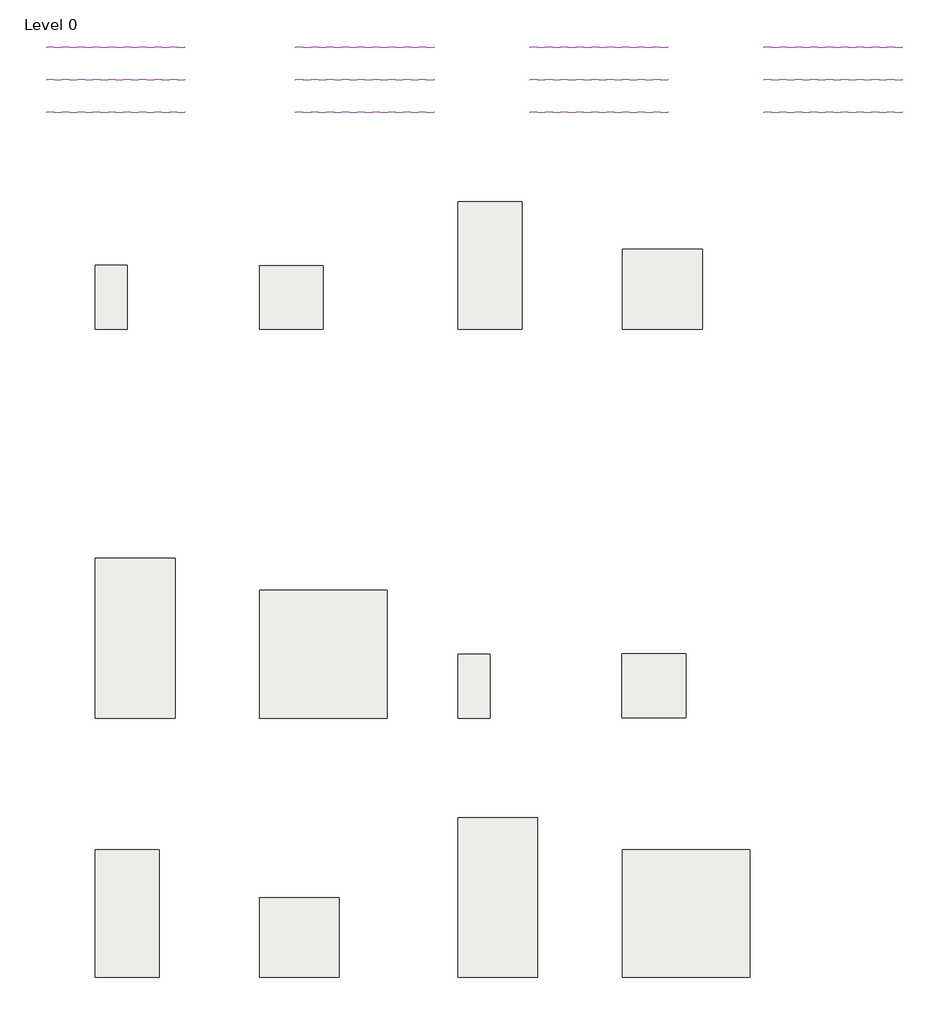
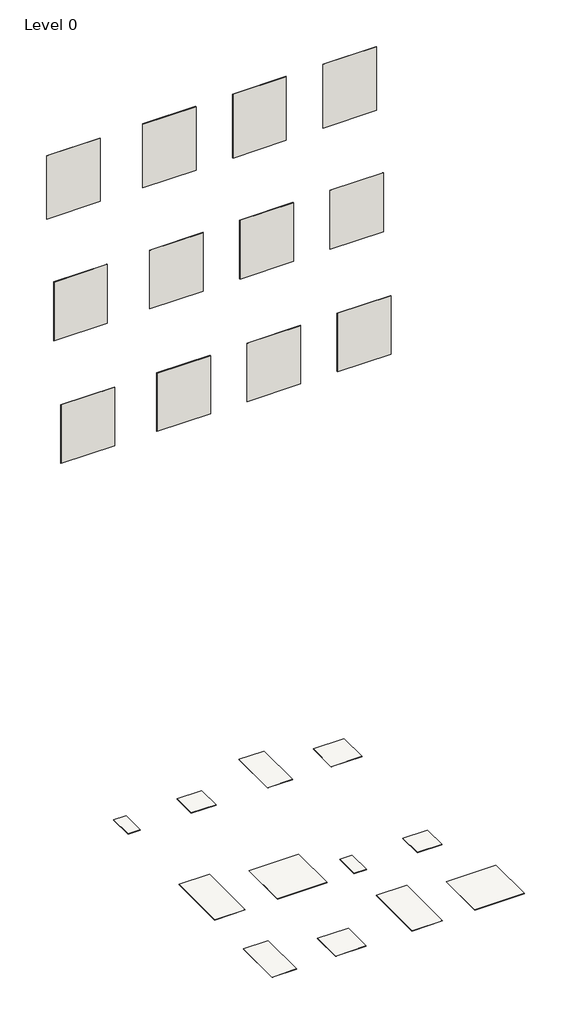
# One storey: 12 slabs, 12 walls.
"""IFC4 building model written with IfcOpenShell, lengths in millimetres."""

from ifc_helpers import new_model, si_unit, frame, origin, place, context, project, spatial, polyline, outline, extrude, element, save

model = new_model("IFC4")

# Units and contexts
model_context = context("Model", 3, world=origin())
ifc_project = project(units=[si_unit("LENGTHUNIT", "METRE", prefix="MILLI")], contexts=[model_context])

# Site, building, storey
site = spatial("IfcSite", under=ifc_project)
building = spatial("IfcBuilding", under=site)
storey = spatial("IfcBuildingStorey", under=building, Name="Level 0", Elevation=0.0)

# Slabs
placement = place(None, origin())
element("IfcSlab", 1, ObjectType="Floor_Tiles_Refin-Block-Mist-60x120 NC86", at=placement, inside=storey, context=model_context, shape_type="SweptSolid", body=[
    extrude(outline(polyline([(10382.3946695, 6689.4623743), (10382.3946695, 5489.4623743), (9782.3946695, 5489.4623743), (9782.3946695, 6689.4623743), (10382.3946695, 6689.4623743)])), frame((0.0, 0.0, -10.0), z_axis=(0.0, 0.0, 1.0), x_axis=(1.0, 0.0, 0.0)), (0.0, 0.0, 1.0), 10.0),
])
element("IfcSlab", 2, ObjectType="Floor_Tiles_Refin-Block-Mist-30x60 MX26", at=placement, inside=storey, context=model_context, shape_type="SweptSolid", body=[
    extrude(outline(polyline([(6674.3752062, 6089.4623743), (6674.3752062, 5489.4623743), (6374.3752062, 5489.4623743), (6374.3752062, 6089.4623743), (6674.3752062, 6089.4623743)])), frame((0.0, 0.0, -10.0), z_axis=(0.0, 0.0, 1.0), x_axis=(1.0, 0.0, 0.0)), (0.0, 0.0, 1.0), 10.0),
])
element("IfcSlab", 3, ObjectType="Floor_Tiles_Refin-Block-Mist-120x120 MY58", at=placement, inside=storey, context=model_context, shape_type="SweptSolid", body=[
    extrude(outline(polyline([(9117.3924055, 3039.4623743), (9117.3924055, 1839.4623743), (7917.3924055, 1839.4623743), (7917.3924055, 3039.4623743), (9117.3924055, 3039.4623743)])), frame((0.0, 0.0, -10.0), z_axis=(0.0, 0.0, 1.0), x_axis=(1.0, 0.0, 0.0)), (0.0, 0.0, 1.0), 10.0),
])
element("IfcSlab", 4, ObjectType="Floor_Tiles_Refin-Block-Mist-75x150 MW45", at=placement, inside=storey, context=model_context, shape_type="SweptSolid", body=[
    extrude(outline(polyline([(7124.3752062, 3339.4623743), (7124.3752062, 1839.4623743), (6374.3752062, 1839.4623743), (6374.3752062, 3339.4623743), (7124.3752062, 3339.4623743)])), frame((0.0, 0.0, -10.0), z_axis=(0.0, 0.0, 1.0), x_axis=(1.0, 0.0, 0.0)), (0.0, 0.0, 1.0), 10.0),
])
element("IfcSlab", 5, ObjectType="Floor_Tiles_Refin-Block-Mist-60x60 MX50", at=placement, inside=storey, context=model_context, shape_type="SweptSolid", body=[
    extrude(outline(polyline([(8517.3924055, 6088.4192064), (8517.3924055, 5488.4192064), (7917.3924055, 5488.4192064), (7917.3924055, 6088.4192064), (8517.3924055, 6088.4192064)])), frame((0.0, 0.0, -10.0), z_axis=(0.0, 0.0, 1.0), x_axis=(1.0, 0.0, 0.0)), (0.0, 0.0, 1.0), 10.0),
])
element("IfcSlab", 6, ObjectType="Floor_Tiles_Refin-Block-Mist-Soft-30x60 MX27", at=placement, inside=storey, context=model_context, shape_type="SweptSolid", body=[
    extrude(outline(polyline([(10082.3946695, 2439.4623743), (10082.3946695, 1839.4623743), (9782.3946695, 1839.4623743), (9782.3946695, 2439.4623743), (10082.3946695, 2439.4623743)])), frame((0.0, 0.0, -10.0), z_axis=(0.0, 0.0, 1.0), x_axis=(1.0, 0.0, 0.0)), (0.0, 0.0, 1.0), 10.0),
])
element("IfcSlab", 7, ObjectType="Floor_Tiles_Refin-Block-Mist-75x75 MX89", at=placement, inside=storey, context=model_context, shape_type="SweptSolid", body=[
    extrude(outline(polyline([(12077.1861419, 6239.4623743), (12077.1861419, 5489.4623743), (11327.1861419, 5489.4623743), (11327.1861419, 6239.4623743), (12077.1861419, 6239.4623743)])), frame((0.0, 0.0, -10.0), z_axis=(0.0, 0.0, 1.0), x_axis=(1.0, 0.0, 0.0)), (0.0, 0.0, 1.0), 10.0),
])
element("IfcSlab", 8, ObjectType="Floor_Tiles_Refin-Block-Mist-Soft-60x60 MX51", at=placement, inside=storey, context=model_context, shape_type="SweptSolid", body=[
    extrude(outline(polyline([(11925.4118688, 2443.4367235), (11925.4118688, 1843.4367235), (11325.4118688, 1843.4367235), (11325.4118688, 2443.4367235), (11925.4118688, 2443.4367235)])), frame((0.0, 0.0, -10.0), z_axis=(0.0, 0.0, 1.0), x_axis=(1.0, 0.0, 0.0)), (0.0, 0.0, 1.0), 10.0),
])
element("IfcSlab", 9, ObjectType="Floor_Tiles_Refin-Block-Mist-Soft-75x75 MX90", at=placement, inside=storey, context=model_context, shape_type="SweptSolid", body=[
    extrude(outline(polyline([(8667.3924055, 153.4367235), (8667.3924055, -596.5632765), (7917.3924055, -596.5632765), (7917.3924055, 153.4367235), (8667.3924055, 153.4367235)])), frame((0.0, 0.0, -10.0), z_axis=(0.0, 0.0, 1.0), x_axis=(1.0, 0.0, 0.0)), (0.0, 0.0, 1.0), 10.0),
])
element("IfcSlab", 10, ObjectType="Floor_Tiles_Refin-Block-Mist-Soft-75x150 MW50", at=placement, inside=storey, context=model_context, shape_type="SweptSolid", body=[
    extrude(outline(polyline([(10532.3946695, 903.4367235), (10532.3946695, -596.5632765), (9782.3946695, -596.5632765), (9782.3946695, 903.4367235), (10532.3946695, 903.4367235)])), frame((0.0, 0.0, -10.0), z_axis=(0.0, 0.0, 1.0), x_axis=(1.0, 0.0, 0.0)), (0.0, 0.0, 1.0), 10.0),
])
element("IfcSlab", 11, ObjectType="Floor_Tiles_Refin-Block-Mist-Soft-60x120 NC87", at=placement, inside=storey, context=model_context, shape_type="SweptSolid", body=[
    extrude(outline(polyline([(6974.3752062, 603.4367235), (6974.3752062, -596.5632765), (6374.3752062, -596.5632765), (6374.3752062, 603.4367235), (6974.3752062, 603.4367235)])), frame((0.0, 0.0, -10.0), z_axis=(0.0, 0.0, 1.0), x_axis=(1.0, 0.0, 0.0)), (0.0, 0.0, 1.0), 10.0),
])
element("IfcSlab", 12, ObjectType="Floor_Tiles_Refin-Block-Mist-Soft-120x120 BY59", at=placement, inside=storey, context=model_context, shape_type="SweptSolid", body=[
    extrude(outline(polyline([(12527.1861419, 603.4367235), (12527.1861419, -596.5632765), (11327.1861419, -596.5632765), (11327.1861419, 603.4367235), (12527.1861419, 603.4367235)])), frame((0.0, 0.0, -10.0), z_axis=(0.0, 0.0, 1.0), x_axis=(1.0, 0.0, 0.0)), (0.0, 0.0, 1.0), 10.0),
])

# Walls
element("IfcWall", 13, ObjectType="Wall_Tiles_Refin-Block-Mist-60x60 MX50", at=placement, inside=storey, context=model_context, shape_type="SweptSolid", body=[
    extrude(outline(polyline([(9557.3752062, 8132.3838631), (8257.3752062, 8132.3838631), (8257.3752062, 8142.3838631), (9557.3752062, 8142.3838631), (9557.3752062, 8132.3838631)])), frame((0.0, 0.0, 14387.6770443), z_axis=(0.0, 0.0, 1.0), x_axis=(1.0, 0.0, 0.0)), (0.0, 0.0, 1.0), 1641.7417352),
])
element("IfcWall", 14, ObjectType="Wall_Tiles_Refin-Block-Mist-60x120 NC86", at=placement, inside=storey, context=model_context, shape_type="SweptSolid", body=[
    extrude(outline(polyline([(11757.3752062, 8132.3838631), (10457.3752062, 8132.3838631), (10457.3752062, 8142.3838631), (11757.3752062, 8142.3838631), (11757.3752062, 8132.3838631)])), frame((0.0, 0.0, 14387.6770443), z_axis=(0.0, 0.0, 1.0), x_axis=(1.0, 0.0, 0.0)), (0.0, 0.0, 1.0), 1641.7417352),
])
element("IfcWall", 15, ObjectType="Wall_Tiles_Refin-Block-Mist-30x60 MX26", at=placement, inside=storey, context=model_context, shape_type="SweptSolid", body=[
    extrude(outline(polyline([(7217.3752062, 8132.3838631), (5917.3752062, 8132.3838631), (5917.3752062, 8142.3838631), (7217.3752062, 8142.3838631), (7217.3752062, 8132.3838631)])), frame((0.0, 0.0, 14403.7267346), z_axis=(0.0, 0.0, 1.0), x_axis=(1.0, 0.0, 0.0)), (0.0, 0.0, 1.0), 1625.692045),
])
element("IfcWall", 16, ObjectType="Wall_Tiles_Refin-Block-Mist-75x150 MW45", at=placement, inside=storey, context=model_context, shape_type="SweptSolid", body=[
    extrude(outline(polyline([(7217.3752062, 7827.3838631), (5917.3752062, 7827.3838631), (5917.3752062, 7837.3838631), (7217.3752062, 7837.3838631), (7217.3752062, 7827.3838631)])), frame((0.0, 0.0, 11452.5436262), z_axis=(0.0, 0.0, 1.0), x_axis=(1.0, 0.0, 0.0)), (0.0, 0.0, 1.0), 1513.1985566),
])
element("IfcWall", 17, ObjectType="Wall_Tiles_Refin-Block-Mist-120x120 MY58", at=placement, inside=storey, context=model_context, shape_type="SweptSolid", body=[
    extrude(outline(polyline([(9557.3752062, 7827.3838631), (8257.3752062, 7827.3838631), (8257.3752062, 7837.3838631), (9557.3752062, 7837.3838631), (9557.3752062, 7827.3838631)])), frame((0.0, 0.0, 11452.5436262), z_axis=(0.0, 0.0, 1.0), x_axis=(1.0, 0.0, 0.0)), (0.0, 0.0, 1.0), 1513.1985566),
])
element("IfcWall", 18, ObjectType="Wall_Tiles_Refin-Block-Mist-Soft-30x60 MX27", at=placement, inside=storey, context=model_context, shape_type="SweptSolid", body=[
    extrude(outline(polyline([(11757.3752062, 7827.3838631), (10457.3752062, 7827.3838631), (10457.3752062, 7837.3838631), (11757.3752062, 7837.3838631), (11757.3752062, 7827.3838631)])), frame((0.0, 0.0, 11452.5436262), z_axis=(0.0, 0.0, 1.0), x_axis=(1.0, 0.0, 0.0)), (0.0, 0.0, 1.0), 1513.1985566),
])
element("IfcWall", 19, ObjectType="Wall_Tiles_Refin-Block-Mist-Soft-60x120 NC87", at=placement, inside=storey, context=model_context, shape_type="SweptSolid", body=[
    extrude(outline(polyline([(7217.3752062, 7522.3838631), (5917.3752062, 7522.3838631), (5917.3752062, 7532.3838631), (7217.3752062, 7532.3838631), (7217.3752062, 7522.3838631)])), frame((0.0, 0.0, 8479.1027214), z_axis=(0.0, 0.0, 1.0), x_axis=(1.0, 0.0, 0.0)), (0.0, 0.0, 1.0), 1502.5740159),
])
element("IfcWall", 20, ObjectType="Wall_Tiles_Refin-Block-Mist-Soft-75x75 MX90", at=placement, inside=storey, context=model_context, shape_type="SweptSolid", body=[
    extrude(outline(polyline([(9557.3752062, 7522.3838631), (8257.3752062, 7522.3838631), (8257.3752062, 7532.3838631), (9557.3752062, 7532.3838631), (9557.3752062, 7522.3838631)])), frame((0.0, 0.0, 8479.1027214), z_axis=(0.0, 0.0, 1.0), x_axis=(1.0, 0.0, 0.0)), (0.0, 0.0, 1.0), 1502.5740159),
])
element("IfcWall", 21, ObjectType="Wall_Tiles_Refin-Block-Mist-Soft-75x150 MW50", at=placement, inside=storey, context=model_context, shape_type="SweptSolid", body=[
    extrude(outline(polyline([(11757.3752062, 7522.3838631), (10457.3752062, 7522.3838631), (10457.3752062, 7532.3838631), (11757.3752062, 7532.3838631), (11757.3752062, 7522.3838631)])), frame((0.0, 0.0, 8479.1027214), z_axis=(0.0, 0.0, 1.0), x_axis=(1.0, 0.0, 0.0)), (0.0, 0.0, 1.0), 1502.5740159),
])
element("IfcWall", 22, ObjectType="Wall_Tiles_Refin-Block-Mist-75x75 MX89", at=placement, inside=storey, context=model_context, shape_type="SweptSolid", body=[
    extrude(outline(polyline([(13957.3752062, 8132.3838631), (12657.3752062, 8132.3838631), (12657.3752062, 8142.3838631), (13957.3752062, 8142.3838631), (13957.3752062, 8132.3838631)])), frame((0.0, 0.0, 14387.6770443), z_axis=(0.0, 0.0, 1.0), x_axis=(1.0, 0.0, 0.0)), (0.0, 0.0, 1.0), 1641.7417352),
])
element("IfcWall", 23, ObjectType="Wall_Tiles_Refin-Block-Mist-Soft-60x60 MX51", at=placement, inside=storey, context=model_context, shape_type="SweptSolid", body=[
    extrude(outline(polyline([(13957.3752062, 7827.3838631), (12657.3752062, 7827.3838631), (12657.3752062, 7837.3838631), (13957.3752062, 7837.3838631), (13957.3752062, 7827.3838631)])), frame((0.0, 0.0, 11452.5436262), z_axis=(0.0, 0.0, 1.0), x_axis=(1.0, 0.0, 0.0)), (0.0, 0.0, 1.0), 1513.1985566),
])
element("IfcWall", 24, ObjectType="Wall_Tiles_Refin-Block-Mist-Soft-120x120 BY59", at=placement, inside=storey, context=model_context, shape_type="SweptSolid", body=[
    extrude(outline(polyline([(13957.3752062, 7522.3838631), (12657.3752062, 7522.3838631), (12657.3752062, 7532.3838631), (13957.3752062, 7532.3838631), (13957.3752062, 7522.3838631)])), frame((0.0, 0.0, 8479.1027214), z_axis=(0.0, 0.0, 1.0), x_axis=(1.0, 0.0, 0.0)), (0.0, 0.0, 1.0), 1502.5740159),
])

save(model, "model.ifc")
